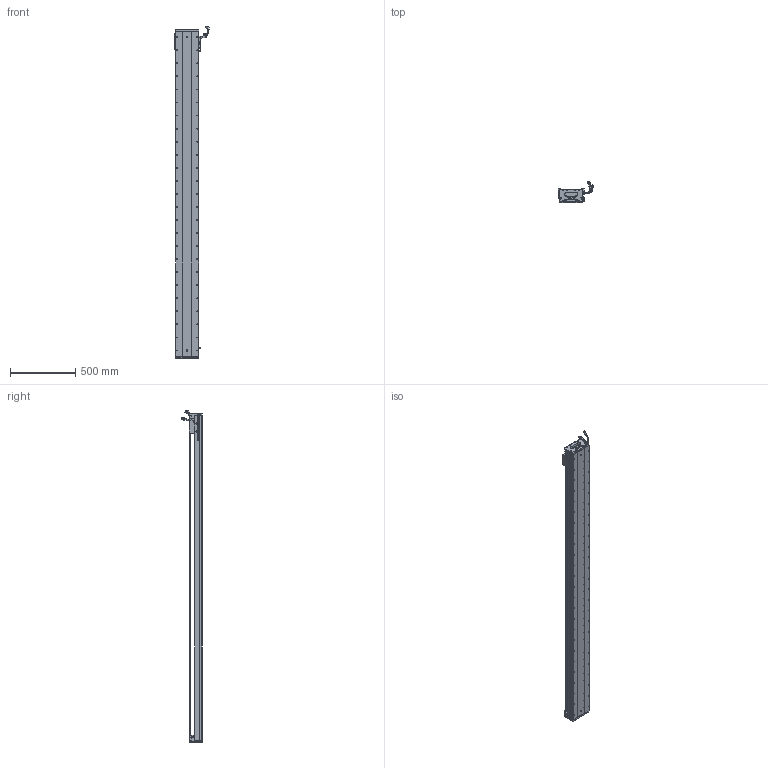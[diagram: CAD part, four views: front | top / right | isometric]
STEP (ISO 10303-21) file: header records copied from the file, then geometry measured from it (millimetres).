
FILE_DESCRIPTION (( 'STEP AP203' ), '1' );
FILE_NAME ('Z1-RY170D-1-L500-B-K.SLDASM_2300.step', '2021-05-17T08:55:15', ( '盈信电脑' ), ( '东莞市道滘镇水果街19号' ), 'SwSTEP 2.0', 'SolidWorks 2016', '' );
FILE_SCHEMA (( 'CONFIG_CONTROL_DESIGN' ));
Length unit declared in the file: millimetre
Products named in the file (36): HARNESS; 覜茼ん672; SEAL; Z1-RY170臏賑輸(21遴); SCREW-M1.6-3; SCREW-M1.6; SCALE; PSLH080_PSLF2; SCREW-M1.6-2; HARNESS-Part-2; Z-170詩湍傷裔啣; Z-RY170詩湍奻揤裔; SCALE-Part-1; SCREW-M1.7-1; SHIELDPLATE; RY170直线电机感应器672光电感应片; SCREW-M1.6-1; Z-RY170詩湍狟揤裔; SCREW-M1.7; Z1-RY170-L500詩湍145mm遵_2300; 140雄赽晤鎢ん堤盄; PBU_SHEET; SEAL-Part-1; HARNESS-Part-1; LABEL-Part-1; 榋妏寠巭燃_暯_M2_2; COVER-Part-1; Z1-RY170D-1-L500-B-K.SLDASM_2300; 080黍杅芛假蚾釱21遴; HOLDER0; 170-Z-臏賑輸盄裔(21遴); 140蚥薯蝶輸; SCALE-Part-2; COVER; LABEL; Z1-RY170-L500耀郪菁釱_2300
Assembly tree (41 placements, depth 4):
  Z1-RY170D-1-L500-B-K.SLDASM_2300
    Z1-RY170-L500耀郪菁釱_2300
    RY170直线电机感应器672光电感应片
    Z1-RY170臏賑輸(21遴)
    覜茼ん672  x3
    PSLH080_PSLF2
      SCALE
        SCALE-Part-1
        SCALE-Part-2
      HARNESS
        HARNESS-Part-1
        HARNESS-Part-2
      LABEL
        LABEL-Part-1
      COVER
        COVER-Part-1
      SEAL
        SEAL-Part-1
      榋妏寠巭燃_暯_M2_2
      SHIELDPLATE
      SCREW-M1.7
      SCREW-M1.7-1
      PBU_SHEET
      SCREW-M1.6
      SCREW-M1.6-1
      SCREW-M1.6-2
      SCREW-M1.6-3
      HOLDER0
    080黍杅芛假蚾釱21遴
    Z1-RY170-L500詩湍145mm遵_2300
    Z-170詩湍傷裔啣  x2
    Z-RY170詩湍奻揤裔  x2
    Z-RY170詩湍狟揤裔  x2
    140蚥薯蝶輸  x2
    170-Z-臏賑輸盄裔(21遴)
    140雄赽晤鎢ん堤盄
Bounding box: 275.34 x 158.11 x 2543.72 mm (x, y, z)
Volume: 12194372.9 mm3; surface area: 3050247 mm2
Topology: 36 solids, 36 shells, 3918 faces, 10877 edges, 6801 vertices
Faces by surface type: cylinder 1968, plane 1288, cone 540, torus 69, bspline 53
Entity records: 123333 total; most frequent: CARTESIAN_POINT 34722, ORIENTED_EDGE 18246, DIRECTION 16923, EDGE_CURVE 9123, AXIS2_PLACEMENT_3D 6216, VERTEX_POINT 5919, LINE 4491, VECTOR 4491
